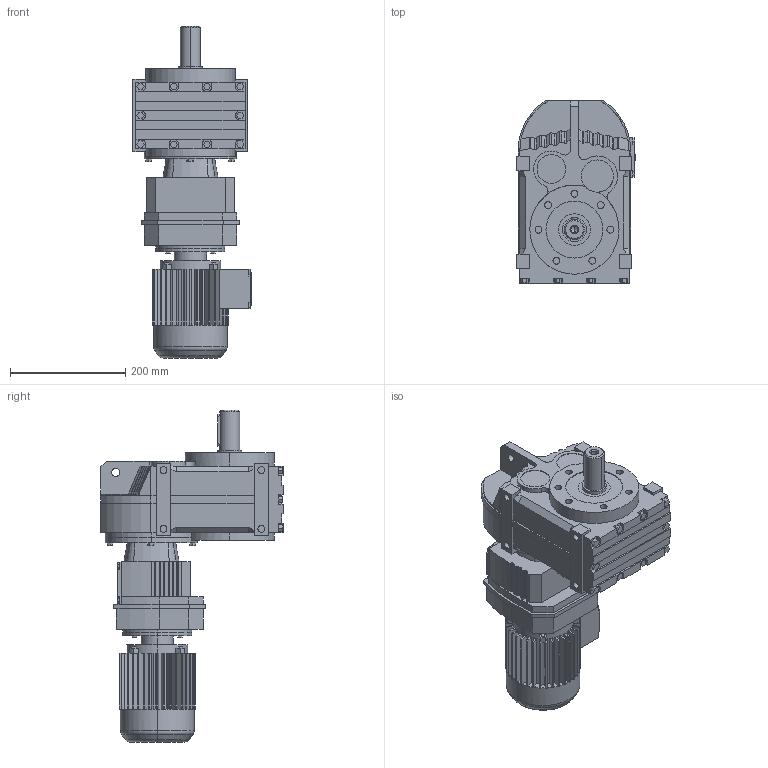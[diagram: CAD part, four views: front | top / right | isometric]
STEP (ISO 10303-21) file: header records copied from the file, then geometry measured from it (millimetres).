
FILE_DESCRIPTION(('Open CASCADE Model'),'2;1');
FILE_NAME('Open CASCADE Shape Model','2021-07-24T10:22:44',('Author'),( 'Open CASCADE'),'Open CASCADE STEP processor 6.3','Open CASCADE 6.3' ,'Unknown');
FILE_SCHEMA(('AUTOMOTIVE_DESIGN_CC2 { 1 2 10303 214 -1 1 5 4 }'));
Length unit declared in the file: millimetre
Products named in the file (5): 1_F57R37DR63; FAZ27‵157_57.step; 萇儂_120-DR63-191-246-132-105.step; R_57_37.step; す瑩妗陑粣F_57.step
Assembly tree (4 placements, depth 2):
  1_F57R37DR63
    FAZ27‵157_57.step
    萇儂_120-DR63-191-246-132-105.step
    R_57_37.step
    す瑩妗陑粣F_57.step
Bounding box: 205.5 x 317 x 577 mm (x, y, z)
Volume: 12303267.4 mm3; surface area: 698572.1 mm2
Topology: 4 solids, 4 shells, 1016 faces, 2696 edges, 1762 vertices
Faces by surface type: plane 752, cylinder 228, bspline 16, cone 16, torus 4
Entity records: 68580 total; most frequent: CARTESIAN_POINT 16436, DIRECTION 9198, LINE 5483, VECTOR 5483, ORIENTED_EDGE 5388, PCURVE 5388, DEFINITIONAL_REPRESENTATION 5388, EDGE_CURVE 2694
